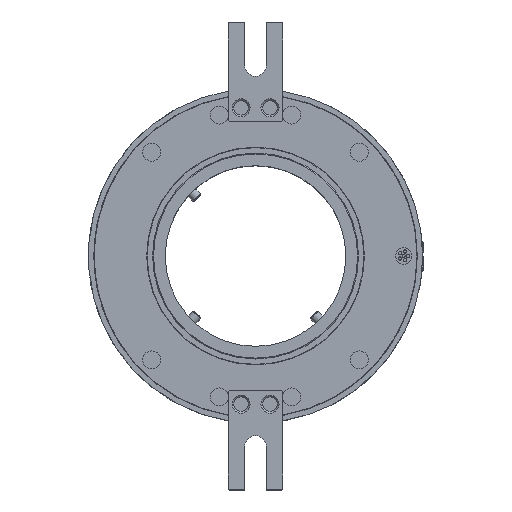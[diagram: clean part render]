
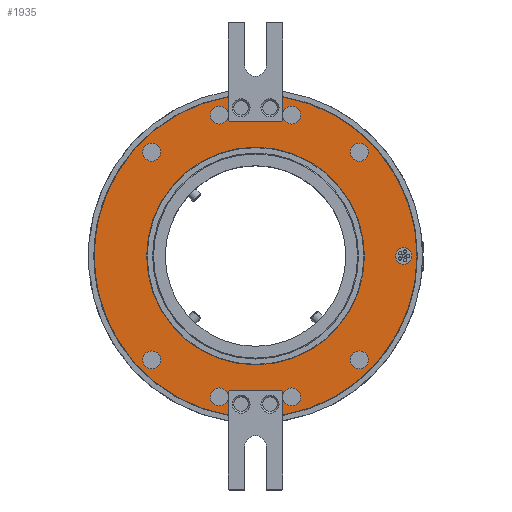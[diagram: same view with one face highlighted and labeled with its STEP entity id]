
A CAD part, top view. The second image highlights one B-rep face of the part: STEP entity #1935.
In plain terms, the highlighted planar face has unit normal (0, 0, 1).
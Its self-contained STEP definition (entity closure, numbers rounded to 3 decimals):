
#180=FACE_BOUND('',#4956,.T.);
#181=FACE_BOUND('',#4957,.T.);
#182=FACE_BOUND('',#4958,.T.);
#183=FACE_BOUND('',#4959,.T.);
#184=FACE_BOUND('',#4960,.T.);
#185=FACE_BOUND('',#4961,.T.);
#186=FACE_BOUND('',#4962,.T.);
#515=CIRCLE('',#16950,5.);
#516=CIRCLE('',#16951,89.4);
#517=CIRCLE('',#16952,5.);
#518=CIRCLE('',#16953,5.);
#519=CIRCLE('',#16954,89.4);
#520=CIRCLE('',#16955,5.);
#521=CIRCLE('',#16956,60.25);
#522=CIRCLE('',#16957,5.);
#523=CIRCLE('',#16958,4.5);
#524=CIRCLE('',#16959,5.);
#525=CIRCLE('',#16960,5.);
#526=CIRCLE('',#16961,5.);
#944=PLANE('',#16962);
#1195=LINE('',#31921,#3270);
#1196=LINE('',#31924,#3271);
#1197=LINE('',#31926,#3272);
#1198=LINE('',#31928,#3273);
#1199=LINE('',#31930,#3274);
#1200=LINE('',#31933,#3275);
#1201=LINE('',#31937,#3276);
#1202=LINE('',#31940,#3277);
#1203=LINE('',#31942,#3278);
#1204=LINE('',#31944,#3279);
#1205=LINE('',#31946,#3280);
#1206=LINE('',#31948,#3281);
#1207=LINE('',#31951,#3282);
#1208=LINE('',#31955,#3283);
#1935=ADVANCED_FACE('',(#180,#181,#182,#183,#184,#185,#186),#944,.T.);
#3270=VECTOR('',#18494,1.);
#3271=VECTOR('',#18495,1.);
#3272=VECTOR('',#18496,1.);
#3273=VECTOR('',#18497,1.);
#3274=VECTOR('',#18498,1.);
#3275=VECTOR('',#18501,1.);
#3276=VECTOR('',#18504,1.);
#3277=VECTOR('',#18507,1.);
#3278=VECTOR('',#18508,1.);
#3279=VECTOR('',#18509,1.);
#3280=VECTOR('',#18510,1.);
#3281=VECTOR('',#18511,1.);
#3282=VECTOR('',#18514,1.);
#3283=VECTOR('',#18517,1.);
#4956=EDGE_LOOP('',(#7755,#7756,#7757,#7758,#7759,#7760,#7761,#7762,#7763,
#7764,#7765,#7766,#7767,#7768,#7769,#7770,#7771,#7772,#7773,#7774));
#4957=EDGE_LOOP('',(#7775));
#4958=EDGE_LOOP('',(#7776));
#4959=EDGE_LOOP('',(#7777));
#4960=EDGE_LOOP('',(#7778));
#4961=EDGE_LOOP('',(#7779));
#4962=EDGE_LOOP('',(#7780));
#7755=ORIENTED_EDGE('',*,*,#13609,.F.);
#7756=ORIENTED_EDGE('',*,*,#13610,.T.);
#7757=ORIENTED_EDGE('',*,*,#13611,.F.);
#7758=ORIENTED_EDGE('',*,*,#13612,.T.);
#7759=ORIENTED_EDGE('',*,*,#13613,.F.);
#7760=ORIENTED_EDGE('',*,*,#13614,.T.);
#7761=ORIENTED_EDGE('',*,*,#13615,.F.);
#7762=ORIENTED_EDGE('',*,*,#13616,.F.);
#7763=ORIENTED_EDGE('',*,*,#13617,.F.);
#7764=ORIENTED_EDGE('',*,*,#13618,.T.);
#7765=ORIENTED_EDGE('',*,*,#13619,.F.);
#7766=ORIENTED_EDGE('',*,*,#13620,.T.);
#7767=ORIENTED_EDGE('',*,*,#13621,.F.);
#7768=ORIENTED_EDGE('',*,*,#13622,.T.);
#7769=ORIENTED_EDGE('',*,*,#13623,.F.);
#7770=ORIENTED_EDGE('',*,*,#13624,.T.);
#7771=ORIENTED_EDGE('',*,*,#13625,.F.);
#7772=ORIENTED_EDGE('',*,*,#13626,.F.);
#7773=ORIENTED_EDGE('',*,*,#13627,.F.);
#7774=ORIENTED_EDGE('',*,*,#13628,.T.);
#7775=ORIENTED_EDGE('',*,*,#13629,.T.);
#7776=ORIENTED_EDGE('',*,*,#13630,.T.);
#7777=ORIENTED_EDGE('',*,*,#13631,.T.);
#7778=ORIENTED_EDGE('',*,*,#13632,.T.);
#7779=ORIENTED_EDGE('',*,*,#13633,.T.);
#7780=ORIENTED_EDGE('',*,*,#13634,.T.);
#11417=VERTEX_POINT('',#31922);
#11418=VERTEX_POINT('',#31923);
#11419=VERTEX_POINT('',#31925);
#11420=VERTEX_POINT('',#31927);
#11421=VERTEX_POINT('',#31929);
#11422=VERTEX_POINT('',#31931);
#11423=VERTEX_POINT('',#31934);
#11424=VERTEX_POINT('',#31936);
#11425=VERTEX_POINT('',#31938);
#11426=VERTEX_POINT('',#31941);
#11427=VERTEX_POINT('',#31943);
#11428=VERTEX_POINT('',#31945);
#11429=VERTEX_POINT('',#31947);
#11430=VERTEX_POINT('',#31949);
#11431=VERTEX_POINT('',#31952);
#11432=VERTEX_POINT('',#31954);
#11433=VERTEX_POINT('',#31958);
#11434=VERTEX_POINT('',#31960);
#11435=VERTEX_POINT('',#31962);
#11436=VERTEX_POINT('',#31964);
#11437=VERTEX_POINT('',#31966);
#11438=VERTEX_POINT('',#31968);
#13609=EDGE_CURVE('',#11417,#11418,#1195,.T.);
#13610=EDGE_CURVE('',#11417,#11419,#1196,.T.);
#13611=EDGE_CURVE('',#11420,#11419,#1197,.T.);
#13612=EDGE_CURVE('',#11420,#11421,#1198,.T.);
#13613=EDGE_CURVE('',#11422,#11421,#1199,.T.);
#13614=EDGE_CURVE('',#11422,#11422,#515,.T.);
#13615=EDGE_CURVE('',#11423,#11422,#1200,.T.);
#13616=EDGE_CURVE('',#11424,#11423,#516,.T.);
#13617=EDGE_CURVE('',#11425,#11424,#1201,.T.);
#13618=EDGE_CURVE('',#11425,#11425,#517,.T.);
#13619=EDGE_CURVE('',#11426,#11425,#1202,.T.);
#13620=EDGE_CURVE('',#11426,#11427,#1203,.T.);
#13621=EDGE_CURVE('',#11428,#11427,#1204,.T.);
#13622=EDGE_CURVE('',#11428,#11429,#1205,.T.);
#13623=EDGE_CURVE('',#11430,#11429,#1206,.T.);
#13624=EDGE_CURVE('',#11430,#11430,#518,.T.);
#13625=EDGE_CURVE('',#11431,#11430,#1207,.T.);
#13626=EDGE_CURVE('',#11432,#11431,#519,.T.);
#13627=EDGE_CURVE('',#11418,#11432,#1208,.T.);
#13628=EDGE_CURVE('',#11418,#11418,#520,.T.);
#13629=EDGE_CURVE('',#11433,#11433,#521,.T.);
#13630=EDGE_CURVE('',#11434,#11434,#522,.T.);
#13631=EDGE_CURVE('',#11435,#11435,#523,.T.);
#13632=EDGE_CURVE('',#11436,#11436,#524,.T.);
#13633=EDGE_CURVE('',#11437,#11437,#525,.T.);
#13634=EDGE_CURVE('',#11438,#11438,#526,.T.);
#16950=AXIS2_PLACEMENT_3D('',#31932,#18499,#18500);
#16951=AXIS2_PLACEMENT_3D('',#31935,#18502,#18503);
#16952=AXIS2_PLACEMENT_3D('',#31939,#18505,#18506);
#16953=AXIS2_PLACEMENT_3D('',#31950,#18512,#18513);
#16954=AXIS2_PLACEMENT_3D('',#31953,#18515,#18516);
#16955=AXIS2_PLACEMENT_3D('',#31956,#18518,#18519);
#16956=AXIS2_PLACEMENT_3D('',#31957,#18520,#18521);
#16957=AXIS2_PLACEMENT_3D('',#31959,#18522,#18523);
#16958=AXIS2_PLACEMENT_3D('',#31961,#18524,#18525);
#16959=AXIS2_PLACEMENT_3D('',#31963,#18526,#18527);
#16960=AXIS2_PLACEMENT_3D('',#31965,#18528,#18529);
#16961=AXIS2_PLACEMENT_3D('',#31967,#18530,#18531);
#16962=AXIS2_PLACEMENT_3D('',#31969,#18532,#18533);
#18494=DIRECTION('',(0.,-1.,0.));
#18495=DIRECTION('',(0.707,0.707,0.));
#18496=DIRECTION('',(-1.,0.,0.));
#18497=DIRECTION('',(0.707,-0.707,0.));
#18498=DIRECTION('',(0.,1.,0.));
#18499=DIRECTION('',(0.,0.,-1.));
#18500=DIRECTION('',(-1.,0.,0.));
#18501=DIRECTION('',(0.,1.,0.));
#18502=DIRECTION('',(0.,0.,-1.));
#18503=DIRECTION('',(1.,0.,0.));
#18504=DIRECTION('',(0.,1.,0.));
#18505=DIRECTION('',(0.,0.,-1.));
#18506=DIRECTION('',(-1.,0.,0.));
#18507=DIRECTION('',(0.,1.,0.));
#18508=DIRECTION('',(-0.707,-0.707,0.));
#18509=DIRECTION('',(1.,0.,0.));
#18510=DIRECTION('',(-0.707,0.707,0.));
#18511=DIRECTION('',(0.,-1.,0.));
#18512=DIRECTION('',(0.,0.,-1.));
#18513=DIRECTION('',(-1.,0.,0.));
#18514=DIRECTION('',(0.,-1.,0.));
#18515=DIRECTION('',(0.,0.,-1.));
#18516=DIRECTION('',(1.,0.,0.));
#18517=DIRECTION('',(0.,-1.,0.));
#18518=DIRECTION('',(0.,0.,-1.));
#18519=DIRECTION('',(-1.,0.,0.));
#18520=DIRECTION('',(0.,0.,-1.));
#18521=DIRECTION('',(1.,0.,0.));
#18522=DIRECTION('',(0.,0.,-1.));
#18523=DIRECTION('',(-1.,0.,0.));
#18524=DIRECTION('',(0.,0.,-1.));
#18525=DIRECTION('',(-1.,0.,0.));
#18526=DIRECTION('',(0.,0.,-1.));
#18527=DIRECTION('',(-1.,0.,0.));
#18528=DIRECTION('',(0.,0.,-1.));
#18529=DIRECTION('',(-1.,0.,0.));
#18530=DIRECTION('',(0.,0.,-1.));
#18531=DIRECTION('',(-1.,0.,0.));
#18532=DIRECTION('',(0.,0.,1.));
#18533=DIRECTION('',(1.,0.,0.));
#31921=CARTESIAN_POINT('',(-15.,-102.,77.5));
#31922=CARTESIAN_POINT('',(-15.,-75.,77.5));
#31923=CARTESIAN_POINT('',(-15.,-78.,77.5));
#31924=CARTESIAN_POINT('',(-21.,-81.,77.5));
#31925=CARTESIAN_POINT('',(-14.5,-74.5,77.5));
#31926=CARTESIAN_POINT('',(0.,-74.5,77.5));
#31927=CARTESIAN_POINT('',(14.5,-74.5,77.5));
#31928=CARTESIAN_POINT('',(21.,-81.,77.5));
#31929=CARTESIAN_POINT('',(15.,-75.,77.5));
#31930=CARTESIAN_POINT('',(15.,-102.,77.5));
#31931=CARTESIAN_POINT('',(15.,-78.,77.5));
#31932=CARTESIAN_POINT('',(20.,-78.,77.5));
#31933=CARTESIAN_POINT('',(15.,-102.,77.5));
#31934=CARTESIAN_POINT('',(15.,-88.133,77.5));
#31935=CARTESIAN_POINT('',(0.,0.,77.5));
#31936=CARTESIAN_POINT('',(15.,88.133,77.5));
#31937=CARTESIAN_POINT('',(15.,102.,77.5));
#31938=CARTESIAN_POINT('',(15.,78.,77.5));
#31939=CARTESIAN_POINT('',(20.,78.,77.5));
#31940=CARTESIAN_POINT('',(15.,102.,77.5));
#31941=CARTESIAN_POINT('',(15.,75.,77.5));
#31942=CARTESIAN_POINT('',(21.,81.,77.5));
#31943=CARTESIAN_POINT('',(14.5,74.5,77.5));
#31944=CARTESIAN_POINT('',(0.,74.5,77.5));
#31945=CARTESIAN_POINT('',(-14.5,74.5,77.5));
#31946=CARTESIAN_POINT('',(-21.,81.,77.5));
#31947=CARTESIAN_POINT('',(-15.,75.,77.5));
#31948=CARTESIAN_POINT('',(-15.,102.,77.5));
#31949=CARTESIAN_POINT('',(-15.,78.,77.5));
#31950=CARTESIAN_POINT('',(-20.,78.,77.5));
#31951=CARTESIAN_POINT('',(-15.,102.,77.5));
#31952=CARTESIAN_POINT('',(-15.,88.133,77.5));
#31953=CARTESIAN_POINT('',(0.,0.,77.5));
#31954=CARTESIAN_POINT('',(-15.,-88.133,77.5));
#31955=CARTESIAN_POINT('',(-15.,-102.,77.5));
#31956=CARTESIAN_POINT('',(-20.,-78.,77.5));
#31957=CARTESIAN_POINT('',(0.,0.,77.5));
#31958=CARTESIAN_POINT('',(60.25,0.,77.5));
#31959=CARTESIAN_POINT('',(57.5,57.5,77.5));
#31960=CARTESIAN_POINT('',(52.5,57.5,77.5));
#31961=CARTESIAN_POINT('',(82.,0.,77.5));
#31962=CARTESIAN_POINT('',(77.5,0.,77.5));
#31963=CARTESIAN_POINT('',(57.5,-57.5,77.5));
#31964=CARTESIAN_POINT('',(52.5,-57.5,77.5));
#31965=CARTESIAN_POINT('',(-57.5,-57.5,77.5));
#31966=CARTESIAN_POINT('',(-62.5,-57.5,77.5));
#31967=CARTESIAN_POINT('',(-57.5,57.5,77.5));
#31968=CARTESIAN_POINT('',(-62.5,57.5,77.5));
#31969=CARTESIAN_POINT('',(0.,0.,77.5));
